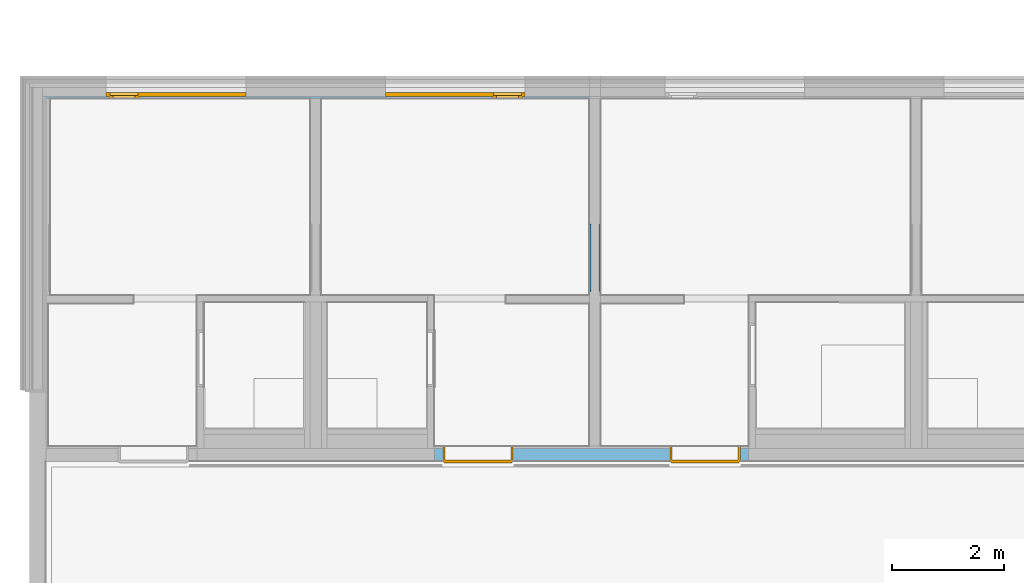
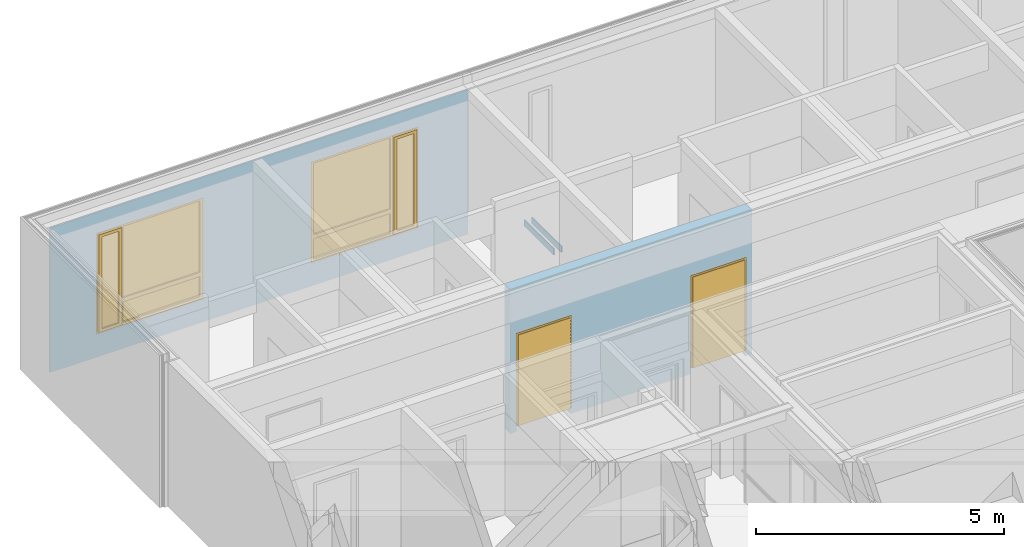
# One storey, part 100 of 222: 2 doors, 2 walls, 2 windows, 4 openings, plus 2 elements that do not belong to this part.
"""IFC4 building model written with IfcOpenShell, lengths in metres."""

from ifc_helpers import new_model, entity, si_unit, converted_unit, derived_unit, frame, frame_2d, origin, origin_with_axes, place, context, subcontext, project, spatial, polyline, rectangle, outline, extrude, closed_shell, open_shell, faceted_brep, surface_model, source, transform, mapped, material, type_object, element, fill, save


model = new_model("IFC4")

# Units and contexts
model_context = context("Model", 3, precision=1e-05, world=origin())
body_context = subcontext(model_context, "Body", "Model", "MODEL_VIEW")
ifc_project = project(units=[si_unit("LENGTHUNIT", "METRE"), si_unit("AREAUNIT", "SQUARE_METRE"), si_unit("VOLUMEUNIT", "CUBIC_METRE"), si_unit("MASSUNIT", "GRAM", prefix="KILO"), converted_unit("PLANEANGLEUNIT", "DEGREE", entity("IfcPlaneAngleMeasure", 0.0174532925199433), si_unit("PLANEANGLEUNIT", "RADIAN"), dimensions=[0, 0, 0, 0, 0, 0, 0]), derived_unit("THERMALTRANSMITTANCEUNIT", [(si_unit("POWERUNIT", "WATT"), 1), (si_unit("THERMODYNAMICTEMPERATUREUNIT", "KELVIN"), -1), (si_unit("LENGTHUNIT", "METRE"), -2)]), derived_unit("VOLUMETRICFLOWRATEUNIT", [(si_unit("LENGTHUNIT", "METRE"), 3), (converted_unit("TIMEUNIT", "hour", entity("IfcTimeMeasure", 3600.0), si_unit("TIMEUNIT", "SECOND"), dimensions=[0, 0, 1, 0, 0, 0, 0]), -1), (si_unit("LENGTHUNIT", "METRE"), -1)])], contexts=[model_context])

# Site, building, storey
site_placement = place(None, origin())
site = spatial("IfcSite", under=ifc_project, at=site_placement, Name="Psychiatrie Neubau Wunstorf", CompositionType="ELEMENT")
building_placement = place(site_placement, origin())
building = spatial("IfcBuilding", under=site, at=building_placement, Name="Neubau H2 Stationsgebäude", CompositionType="ELEMENT")
storey_placement = place(building_placement, frame((0.0, 0.0, 3.6)))
storey = spatial("IfcBuildingStorey", under=building, at=storey_placement, Name="H2 Ebene +1", CompositionType="ELEMENT", Elevation=3.6)

# Wall, openings, windows
ifc_material_1 = material(Name="WA-LB")
wall_1_placement = place(storey_placement, frame((0.169, 30.614, 0.0)))
wall_1 = element("IfcWall", 1, at=wall_1_placement, inside=storey, material=ifc_material_1, context=body_context, shape_type="SweptSolid", body=[
    extrude(rectangle(XDim=9.731, YDim=0.036, at=frame_2d((4.8655, 0.018), x_axis=(1.0, 0.0))), origin_with_axes(), (0.0, 0.0, 1.0), 3.55),
])
opening_1_placement = place(wall_1_placement, frame((6.081, 0.0, 0.55), z_axis=(0.0, 1.0, 0.0), x_axis=(0.0, 0.0, 1.0)))
opening_1 = element("IfcOpeningElement", 2, at=opening_1_placement, cuts=wall_1, Name="Fensteröffnung", ObjectType="Opening", context=body_context, shape_type="SweptSolid", body=[
    extrude(outline(polyline([(2.5, 2.5), (2.5, 0.0), (0.0, 0.0), (0.0, 2.5), (2.5, 2.5)])), origin_with_axes(), (0.0, 0.0, 1.0), 0.036),
])
opening_2_placement = place(wall_1_placement, frame((1.081, 0.0, 0.55), z_axis=(0.0, 1.0, 0.0), x_axis=(0.0, 0.0, 1.0)))
opening_2 = element("IfcOpeningElement", 3, at=opening_2_placement, cuts=wall_1, Name="Fensteröffnung", ObjectType="Opening", context=body_context, shape_type="SweptSolid", body=[
    extrude(outline(polyline([(2.5, 2.5), (2.5, 0.0), (0.0, 0.0), (0.0, 2.5), (2.5, 2.5)])), origin_with_axes(), (0.0, 0.0, 1.0), 0.036),
])
shared_shape_1 = source(origin_with_axes(), body_context, "Body", "SurfaceModel", [
    surface_model("IfcShellBasedSurfaceModel", [(2.5, 0.0, 2.5), (2.5, 0.0, 0.0), (2.43, 0.0, 0.0), (2.43, 0.0, 2.5), (2.5, 0.0699999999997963, 0.0), (2.5, 0.0699999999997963, 2.5), (2.43, 0.0699999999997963, 2.5), (2.43, 0.0699999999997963, 0.0)], [closed_shell([[[0, 1, 2, 3]], [[4, 5, 6, 7]], [[1, 0, 5, 4]], [[2, 1, 4, 7]], [[3, 2, 7, 6]], [[0, 3, 6, 5]]], orient=[[False], [False], [False], [False], [False], [False]])]),
    surface_model("IfcShellBasedSurfaceModel", [(0.07, 0.0, 2.5), (0.07, 0.0, 0.0), (0.0, 0.0, 0.0), (0.0, 0.0, 2.5), (0.07, 0.0699999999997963, 0.0), (0.07, 0.0699999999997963, 2.5), (0.0, 0.0699999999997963, 2.5), (0.0, 0.0699999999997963, 0.0)], [closed_shell([[[0, 1, 2, 3]], [[4, 5, 6, 7]], [[1, 0, 5, 4]], [[2, 1, 4, 7]], [[3, 2, 7, 6]], [[0, 3, 6, 5]]], orient=[[False], [False], [False], [False], [False], [False]])]),
    surface_model("IfcShellBasedSurfaceModel", [(2.43, 0.0, 0.07), (2.43, 0.0, 0.0), (0.07, 0.0, 0.0), (0.07, 0.0, 0.07), (2.43, 0.0699999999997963, 0.0), (2.43, 0.0699999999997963, 0.07), (0.07, 0.0699999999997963, 0.07), (0.07, 0.0699999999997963, 0.0)], [closed_shell([[[0, 1, 2, 3]], [[4, 5, 6, 7]], [[1, 0, 5, 4]], [[2, 1, 4, 7]], [[3, 2, 7, 6]], [[0, 3, 6, 5]]], orient=[[False], [False], [False], [False], [False], [False]])]),
    surface_model("IfcShellBasedSurfaceModel", [(2.43, 0.0, 2.5), (2.43, 0.0, 2.43), (0.07, 0.0, 2.43), (0.07, 0.0, 2.5), (2.43, 0.0699999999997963, 2.43), (2.43, 0.0699999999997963, 2.5), (0.07, 0.0699999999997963, 2.5), (0.07, 0.0699999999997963, 2.43)], [closed_shell([[[0, 1, 2, 3]], [[4, 5, 6, 7]], [[1, 0, 5, 4]], [[2, 1, 4, 7]], [[3, 2, 7, 6]], [[0, 3, 6, 5]]], orient=[[False], [False], [False], [False], [False], [False]])]),
    surface_model("IfcShellBasedSurfaceModel", [(1.934285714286, 0.0, 2.43), (1.934285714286, 0.0, 0.07), (1.864285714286, 0.0, 0.07), (1.864285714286, 0.0, 2.43), (1.934285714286, 0.0699999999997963, 0.07), (1.934285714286, 0.0699999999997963, 2.43), (1.864285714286, 0.0699999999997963, 2.43), (1.864285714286, 0.0699999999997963, 0.07)], [closed_shell([[[0, 1, 2, 3]], [[4, 5, 6, 7]], [[1, 0, 5, 4]], [[2, 1, 4, 7]], [[3, 2, 7, 6]], [[0, 3, 6, 5]]], orient=[[False], [False], [False], [False], [False], [False]])]),
    surface_model("IfcShellBasedSurfaceModel", [(2.45, -0.05, 2.45), (2.45, -0.05, 0.05), (2.38, -0.05, 0.05), (2.38, -0.05, 2.45), (2.45, 0.0199999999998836, 0.05), (2.45, 0.0199999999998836, 2.45), (2.38, 0.0199999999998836, 2.45), (2.38, 0.0199999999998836, 0.05)], [closed_shell([[[0, 1, 2, 3]], [[4, 5, 6, 7]], [[1, 0, 5, 4]], [[2, 1, 4, 7]], [[3, 2, 7, 6]], [[0, 3, 6, 5]]], orient=[[False], [False], [False], [False], [False], [False]])]),
    surface_model("IfcShellBasedSurfaceModel", [(1.984285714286, -0.05, 2.45), (1.984285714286, -0.05, 0.05), (1.914285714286, -0.05, 0.05), (1.914285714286, -0.05, 2.45), (1.984285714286, 0.0199999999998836, 0.05), (1.984285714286, 0.0199999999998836, 2.45), (1.914285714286, 0.0199999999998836, 2.45), (1.914285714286, 0.0199999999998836, 0.05)], [closed_shell([[[0, 1, 2, 3]], [[4, 5, 6, 7]], [[1, 0, 5, 4]], [[2, 1, 4, 7]], [[3, 2, 7, 6]], [[0, 3, 6, 5]]], orient=[[False], [False], [False], [False], [False], [False]])]),
    surface_model("IfcShellBasedSurfaceModel", [(2.38, -0.05, 0.12), (2.38, -0.05, 0.05), (1.984285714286, -0.05, 0.05), (1.984285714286, -0.05, 0.12), (2.38, 0.0199999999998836, 0.05), (2.38, 0.0199999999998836, 0.12), (1.984285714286, 0.0199999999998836, 0.12), (1.984285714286, 0.0199999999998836, 0.05)], [closed_shell([[[0, 1, 2, 3]], [[4, 5, 6, 7]], [[1, 0, 5, 4]], [[2, 1, 4, 7]], [[3, 2, 7, 6]], [[0, 3, 6, 5]]], orient=[[False], [False], [False], [False], [False], [False]])]),
    surface_model("IfcShellBasedSurfaceModel", [(2.38, -0.05, 2.45), (2.38, -0.05, 2.38), (1.984285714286, -0.05, 2.38), (1.984285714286, -0.05, 2.45), (2.38, 0.0199999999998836, 2.38), (2.38, 0.0199999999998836, 2.45), (1.984285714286, 0.0199999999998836, 2.45), (1.984285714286, 0.0199999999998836, 2.38)], [closed_shell([[[0, 1, 2, 3]], [[4, 5, 6, 7]], [[1, 0, 5, 4]], [[2, 1, 4, 7]], [[3, 2, 7, 6]], [[0, 3, 6, 5]]], orient=[[False], [False], [False], [False], [False], [False]])]),
    surface_model("IfcShellBasedSurfaceModel", [(1.864285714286, 0.0, 0.67), (1.864285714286, 0.0, 0.57), (0.07, 0.0, 0.57), (0.07, 0.0, 0.67), (1.864285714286, 0.0699999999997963, 0.57), (1.864285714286, 0.0699999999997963, 0.67), (0.07, 0.0699999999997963, 0.67), (0.07, 0.0699999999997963, 0.57)], [closed_shell([[[0, 1, 2, 3]], [[4, 5, 6, 7]], [[1, 0, 5, 4]], [[2, 1, 4, 7]], [[3, 2, 7, 6]], [[0, 3, 6, 5]]], orient=[[False], [False], [False], [False], [False], [False]])]),
    surface_model("IfcShellBasedSurfaceModel", [(2.38, -0.0150000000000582, 0.12), (1.984285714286, -0.0150000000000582, 0.12), (1.984285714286, -0.0150000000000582, 2.38), (2.38, -0.0150000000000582, 2.38)], [open_shell([[[0, 1, 2, 3]]], orient=[[False]])]),
    surface_model("IfcShellBasedSurfaceModel", [(1.864285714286, 0.0349999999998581, 0.07), (0.07, 0.0349999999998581, 0.07), (0.07, 0.0349999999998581, 0.57), (1.864285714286, 0.0349999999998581, 0.57)], [open_shell([[[0, 1, 2, 3]]], orient=[[False]])]),
    surface_model("IfcShellBasedSurfaceModel", [(1.864285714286, 0.0349999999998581, 0.67), (0.07, 0.0349999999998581, 0.67), (0.07, 0.0349999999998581, 2.43), (1.864285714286, 0.0349999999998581, 2.43)], [open_shell([[[0, 1, 2, 3]]], orient=[[False]])]),
])
window_1_placement = place(opening_1_placement, frame((0.0, 0.0, 0.03), z_axis=(1.0, 0.0, 0.0), x_axis=(0.0, 1.0, 0.0)))
window_1 = element("IfcWindow", 4, at=window_1_placement, inside=storey, Name="Fenster", OverallHeight=2.5, OverallWidth=2.5, PartitioningType="USERDEFINED", PredefinedType="WINDOW", context=body_context, shape_type="MappedRepresentation", body=[
    mapped(shared_shape_1, transform((0.0, 0.0, 0.0), x_axis=(1.0, 0.0, 0.0), y_axis=(0.0, 1.0, 0.0), z_axis=(0.0, 0.0, 1.0), scale=1.0)),
])
fill(opening_1, window_1)
shared_shape_2 = source(origin_with_axes(), body_context, "Body", "SurfaceModel", [
    surface_model("IfcShellBasedSurfaceModel", [(0.0, 0.0, 2.5), (0.07, 0.0, 2.5), (0.07, 0.0, 0.0), (0.0, 0.0, 0.0), (0.0, 0.0699999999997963, 0.0), (0.07, 0.0699999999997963, 0.0), (0.07, 0.0699999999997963, 2.5), (0.0, 0.0699999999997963, 2.5)], [closed_shell([[[0, 1, 2, 3]], [[4, 5, 6, 7]], [[3, 4, 7, 0]], [[2, 5, 4, 3]], [[1, 6, 5, 2]], [[0, 7, 6, 1]]], orient=[[False], [False], [False], [False], [False], [False]])]),
    surface_model("IfcShellBasedSurfaceModel", [(2.43, 0.0, 2.5), (2.5, 0.0, 2.5), (2.5, 0.0, 0.0), (2.43, 0.0, 0.0), (2.43, 0.0699999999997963, 0.0), (2.5, 0.0699999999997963, 0.0), (2.5, 0.0699999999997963, 2.5), (2.43, 0.0699999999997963, 2.5)], [closed_shell([[[0, 1, 2, 3]], [[4, 5, 6, 7]], [[3, 4, 7, 0]], [[2, 5, 4, 3]], [[1, 6, 5, 2]], [[0, 7, 6, 1]]], orient=[[False], [False], [False], [False], [False], [False]])]),
    surface_model("IfcShellBasedSurfaceModel", [(0.07, 0.0, 0.07), (2.43, 0.0, 0.07), (2.43, 0.0, 0.0), (0.07, 0.0, 0.0), (0.07, 0.0699999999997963, 0.0), (2.43, 0.0699999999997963, 0.0), (2.43, 0.0699999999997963, 0.07), (0.07, 0.0699999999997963, 0.07)], [closed_shell([[[0, 1, 2, 3]], [[4, 5, 6, 7]], [[3, 4, 7, 0]], [[2, 5, 4, 3]], [[1, 6, 5, 2]], [[0, 7, 6, 1]]], orient=[[False], [False], [False], [False], [False], [False]])]),
    surface_model("IfcShellBasedSurfaceModel", [(0.07, 0.0, 2.5), (2.43, 0.0, 2.5), (2.43, 0.0, 2.43), (0.07, 0.0, 2.43), (0.07, 0.0699999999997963, 2.43), (2.43, 0.0699999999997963, 2.43), (2.43, 0.0699999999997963, 2.5), (0.07, 0.0699999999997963, 2.5)], [closed_shell([[[0, 1, 2, 3]], [[4, 5, 6, 7]], [[3, 4, 7, 0]], [[2, 5, 4, 3]], [[1, 6, 5, 2]], [[0, 7, 6, 1]]], orient=[[False], [False], [False], [False], [False], [False]])]),
    surface_model("IfcShellBasedSurfaceModel", [(0.565714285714, 0.0, 2.43), (0.635714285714, 0.0, 2.43), (0.635714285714, 0.0, 0.07), (0.565714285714, 0.0, 0.07), (0.565714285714, 0.0699999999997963, 0.07), (0.635714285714, 0.0699999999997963, 0.07), (0.635714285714, 0.0699999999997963, 2.43), (0.565714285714, 0.0699999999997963, 2.43)], [closed_shell([[[0, 1, 2, 3]], [[4, 5, 6, 7]], [[3, 4, 7, 0]], [[2, 5, 4, 3]], [[1, 6, 5, 2]], [[0, 7, 6, 1]]], orient=[[False], [False], [False], [False], [False], [False]])]),
    surface_model("IfcShellBasedSurfaceModel", [(0.05, -0.05, 2.45), (0.12, -0.05, 2.45), (0.12, -0.05, 0.05), (0.05, -0.05, 0.05), (0.05, 0.0199999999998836, 0.05), (0.12, 0.0199999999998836, 0.05), (0.12, 0.0199999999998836, 2.45), (0.05, 0.0199999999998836, 2.45)], [closed_shell([[[0, 1, 2, 3]], [[4, 5, 6, 7]], [[3, 4, 7, 0]], [[2, 5, 4, 3]], [[1, 6, 5, 2]], [[0, 7, 6, 1]]], orient=[[False], [False], [False], [False], [False], [False]])]),
    surface_model("IfcShellBasedSurfaceModel", [(0.515714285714, -0.05, 2.45), (0.585714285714, -0.05, 2.45), (0.585714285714, -0.05, 0.05), (0.515714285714, -0.05, 0.05), (0.515714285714, 0.0199999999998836, 0.05), (0.585714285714, 0.0199999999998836, 0.05), (0.585714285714, 0.0199999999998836, 2.45), (0.515714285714, 0.0199999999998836, 2.45)], [closed_shell([[[0, 1, 2, 3]], [[4, 5, 6, 7]], [[3, 4, 7, 0]], [[2, 5, 4, 3]], [[1, 6, 5, 2]], [[0, 7, 6, 1]]], orient=[[False], [False], [False], [False], [False], [False]])]),
    surface_model("IfcShellBasedSurfaceModel", [(0.12, -0.05, 0.12), (0.515714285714, -0.05, 0.12), (0.515714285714, -0.05, 0.05), (0.12, -0.05, 0.05), (0.12, 0.0199999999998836, 0.05), (0.515714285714, 0.0199999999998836, 0.05), (0.515714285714, 0.0199999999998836, 0.12), (0.12, 0.0199999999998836, 0.12)], [closed_shell([[[0, 1, 2, 3]], [[4, 5, 6, 7]], [[3, 4, 7, 0]], [[2, 5, 4, 3]], [[1, 6, 5, 2]], [[0, 7, 6, 1]]], orient=[[False], [False], [False], [False], [False], [False]])]),
    surface_model("IfcShellBasedSurfaceModel", [(0.12, -0.05, 2.45), (0.515714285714, -0.05, 2.45), (0.515714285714, -0.05, 2.38), (0.12, -0.05, 2.38), (0.12, 0.0199999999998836, 2.38), (0.515714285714, 0.0199999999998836, 2.38), (0.515714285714, 0.0199999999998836, 2.45), (0.12, 0.0199999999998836, 2.45)], [closed_shell([[[0, 1, 2, 3]], [[4, 5, 6, 7]], [[3, 4, 7, 0]], [[2, 5, 4, 3]], [[1, 6, 5, 2]], [[0, 7, 6, 1]]], orient=[[False], [False], [False], [False], [False], [False]])]),
    surface_model("IfcShellBasedSurfaceModel", [(0.635714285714, 0.0, 0.67), (2.43, 0.0, 0.67), (2.43, 0.0, 0.57), (0.635714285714, 0.0, 0.57), (0.635714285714, 0.0699999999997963, 0.57), (2.43, 0.0699999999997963, 0.57), (2.43, 0.0699999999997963, 0.67), (0.635714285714, 0.0699999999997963, 0.67)], [closed_shell([[[0, 1, 2, 3]], [[4, 5, 6, 7]], [[3, 4, 7, 0]], [[2, 5, 4, 3]], [[1, 6, 5, 2]], [[0, 7, 6, 1]]], orient=[[False], [False], [False], [False], [False], [False]])]),
    surface_model("IfcShellBasedSurfaceModel", [(0.12, -0.0150000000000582, 0.12), (0.12, -0.0150000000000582, 2.38), (0.515714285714, -0.0150000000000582, 2.38), (0.515714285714, -0.0150000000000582, 0.12)], [open_shell([[[0, 1, 2, 3]]], orient=[[False]])]),
    surface_model("IfcShellBasedSurfaceModel", [(0.635714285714, 0.0349999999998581, 0.07), (0.635714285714, 0.0349999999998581, 0.57), (2.43, 0.0349999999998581, 0.57), (2.43, 0.0349999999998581, 0.07)], [open_shell([[[0, 1, 2, 3]]], orient=[[False]])]),
    surface_model("IfcShellBasedSurfaceModel", [(0.635714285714, 0.0349999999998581, 0.67), (0.635714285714, 0.0349999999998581, 2.43), (2.43, 0.0349999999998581, 2.43), (2.43, 0.0349999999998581, 0.67)], [open_shell([[[0, 1, 2, 3]]], orient=[[False]])]),
])
window_2_placement = place(opening_2_placement, frame((0.0, 0.0, 0.03), z_axis=(1.0, 0.0, 0.0), x_axis=(0.0, 1.0, 0.0)))
window_2 = element("IfcWindow", 5, at=window_2_placement, inside=storey, Name="Fenster", OverallHeight=2.5, OverallWidth=2.5, PartitioningType="USERDEFINED", PredefinedType="WINDOW", context=body_context, shape_type="MappedRepresentation", body=[
    mapped(shared_shape_2, transform((0.0, 0.0, 0.0), x_axis=(1.0, 0.0, 0.0), y_axis=(0.0, 1.0, 0.0), z_axis=(0.0, 0.0, 1.0), scale=1.0)),
])
fill(opening_2, window_2)

# Wall, openings, doors
ifc_material_2 = material(Name="WI-HW 60")
wall_2_placement = place(storey_placement, frame((7.125, 24.1175, 0.0), z_axis=(0.0, 0.0, 1.0), x_axis=(1.0, -6.46751787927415e-16, 0.0)))
wall_2 = element("IfcWall", 6, at=wall_2_placement, inside=storey, material=ifc_material_2, context=body_context, shape_type="SweptSolid", body=[
    extrude(rectangle(XDim=5.625, YDim=0.232, at=frame_2d((2.8125, 0.116), x_axis=(1.0, 0.0))), origin_with_axes(), (0.0, 0.0, 1.0), 3.55),
])
opening_3_placement = place(wall_2_placement, frame((4.21500000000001, 0.0, 0.0), z_axis=(0.0, 1.0, 0.0), x_axis=(0.0, 0.0, 1.0)))
opening_3 = element("IfcOpeningElement", 7, at=opening_3_placement, cuts=wall_2, Name="Türöffnung", ObjectType="Opening", context=body_context, shape_type="SweptSolid", body=[
    extrude(outline(polyline([(2.41, 1.26), (2.41, 0.0), (0.0, 0.0), (0.0, 1.26), (2.41, 1.26)])), origin_with_axes(), (0.0, 0.0, 1.0), 0.232),
])
opening_4_placement = place(wall_2_placement, frame((0.149999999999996, 0.0, 0.0), z_axis=(-6.125368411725e-16, 1.0, 0.0), x_axis=(0.0, 0.0, 1.0)))
opening_4 = element("IfcOpeningElement", 8, at=opening_4_placement, cuts=wall_2, Name="Türöffnung", ObjectType="Opening", context=body_context, shape_type="SweptSolid", body=[
    extrude(outline(polyline([(2.41, 1.26), (2.41, 0.0), (0.0, 0.0), (0.0, 1.26), (2.41, 1.26)])), origin_with_axes(), (0.0, 0.0, 1.0), 0.232),
])
ifc_material_3 = material(Name="TI-2F-UZ-D")
door_type_1 = type_object("IfcDoorType", Name="SMT", OperationType="DOUBLE_DOOR_SINGLE_SWING", ParameterTakesPrecedence=False, PredefinedType="DOOR")
shared_shape_3 = source(origin_with_axes(), body_context, "Body", "Brep", [
    faceted_brep([(1.26, -0.0150000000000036, 2.41), (1.26, -0.0150000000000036, 0.15), (1.22, -0.0150000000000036, 0.15), (1.22, -0.0150000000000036, 2.41), (1.26, 0.286999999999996, 0.15), (1.26, 0.286999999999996, 2.41), (1.22, 0.286999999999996, 2.41), (1.22, 0.286999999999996, 0.15)], [[[0, 1, 2, 3]], [[4, 5, 6, 7]], [[1, 0, 5, 4]], [[2, 1, 4, 7]], [[3, 2, 7, 6]], [[0, 3, 6, 5]]], orient=[[False], [False], [False], [False], [False], [False]]),
    faceted_brep([(1.26, -0.0150000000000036, 2.425), (1.275, -0.0150000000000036, 2.425), (1.275, -0.0150000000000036, 0.15), (1.26, -0.0150000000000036, 0.15), (1.26, 0.0, 0.15), (1.275, 0.0, 0.15), (1.275, 0.0, 2.425), (1.26, 0.0, 2.425)], [[[0, 1, 2, 3]], [[4, 5, 6, 7]], [[3, 4, 7, 0]], [[2, 5, 4, 3]], [[1, 6, 5, 2]], [[0, 7, 6, 1]]], orient=[[False], [False], [False], [False], [False], [False]]),
    faceted_brep([(1.26, 0.271999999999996, 2.425), (1.275, 0.271999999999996, 2.425), (1.275, 0.271999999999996, 0.15), (1.26, 0.271999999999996, 0.15), (1.26, 0.286999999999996, 0.15), (1.275, 0.286999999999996, 0.15), (1.275, 0.286999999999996, 2.425), (1.26, 0.286999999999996, 2.425)], [[[0, 1, 2, 3]], [[4, 5, 6, 7]], [[3, 4, 7, 0]], [[2, 5, 4, 3]], [[1, 6, 5, 2]], [[0, 7, 6, 1]]], orient=[[False], [False], [False], [False], [False], [False]]),
    faceted_brep([(0.04, -0.0150000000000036, 2.41), (0.04, -0.0150000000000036, 0.15), (0.0, -0.0150000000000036, 0.15), (0.0, -0.0150000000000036, 2.41), (0.04, 0.286999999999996, 0.15), (0.04, 0.286999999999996, 2.41), (0.0, 0.286999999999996, 2.41), (0.0, 0.286999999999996, 0.15)], [[[0, 1, 2, 3]], [[4, 5, 6, 7]], [[1, 0, 5, 4]], [[2, 1, 4, 7]], [[3, 2, 7, 6]], [[0, 3, 6, 5]]], orient=[[False], [False], [False], [False], [False], [False]]),
    faceted_brep([(0.0, -0.0150000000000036, 2.425), (0.0, -0.0150000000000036, 0.15), (-0.015, -0.0150000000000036, 0.15), (-0.015, -0.0150000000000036, 2.425), (0.0, 0.0, 0.15), (0.0, 0.0, 2.425), (-0.015, 0.0, 2.425), (-0.015, 0.0, 0.15)], [[[0, 1, 2, 3]], [[4, 5, 6, 7]], [[1, 0, 5, 4]], [[2, 1, 4, 7]], [[3, 2, 7, 6]], [[0, 3, 6, 5]]], orient=[[False], [False], [False], [False], [False], [False]]),
    faceted_brep([(0.0, 0.271999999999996, 2.425), (0.0, 0.271999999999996, 0.15), (-0.015, 0.271999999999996, 0.15), (-0.015, 0.271999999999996, 2.425), (0.0, 0.286999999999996, 0.15), (0.0, 0.286999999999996, 2.425), (-0.015, 0.286999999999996, 2.425), (-0.015, 0.286999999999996, 0.15)], [[[0, 1, 2, 3]], [[4, 5, 6, 7]], [[1, 0, 5, 4]], [[2, 1, 4, 7]], [[3, 2, 7, 6]], [[0, 3, 6, 5]]], orient=[[False], [False], [False], [False], [False], [False]]),
    faceted_brep([(1.22, -0.0150000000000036, 2.41), (1.22, -0.0150000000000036, 2.37), (0.04, -0.0150000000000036, 2.37), (0.04, -0.0150000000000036, 2.41), (1.22, 0.286999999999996, 2.37), (1.22, 0.286999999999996, 2.41), (0.04, 0.286999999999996, 2.41), (0.04, 0.286999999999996, 2.37)], [[[0, 1, 2, 3]], [[4, 5, 6, 7]], [[1, 0, 5, 4]], [[2, 1, 4, 7]], [[3, 2, 7, 6]], [[0, 3, 6, 5]]], orient=[[False], [False], [False], [False], [False], [False]]),
    faceted_brep([(1.26, -0.0150000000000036, 2.425), (1.26, -0.0150000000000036, 2.41), (0.0, -0.0150000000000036, 2.41), (0.0, -0.0150000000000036, 2.425), (1.26, 0.0, 2.41), (1.26, 0.0, 2.425), (0.0, 0.0, 2.425), (0.0, 0.0, 2.41)], [[[0, 1, 2, 3]], [[4, 5, 6, 7]], [[1, 0, 5, 4]], [[2, 1, 4, 7]], [[3, 2, 7, 6]], [[0, 3, 6, 5]]], orient=[[False], [False], [False], [False], [False], [False]]),
    faceted_brep([(1.26, 0.271999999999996, 2.425), (1.26, 0.271999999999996, 2.41), (0.0, 0.271999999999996, 2.41), (0.0, 0.271999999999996, 2.425), (1.26, 0.286999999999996, 2.41), (1.26, 0.286999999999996, 2.425), (0.0, 0.286999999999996, 2.425), (0.0, 0.286999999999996, 2.41)], [[[0, 1, 2, 3]], [[4, 5, 6, 7]], [[1, 0, 5, 4]], [[2, 1, 4, 7]], [[3, 2, 7, 6]], [[0, 3, 6, 5]]], orient=[[False], [False], [False], [False], [False], [False]]),
    faceted_brep([(1.235, 0.251999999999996, 2.385), (1.235, 0.251999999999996, 0.15), (0.335, 0.251999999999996, 0.15), (0.335, 0.251999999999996, 2.385), (1.235, 0.301999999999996, 0.15), (1.235, 0.301999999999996, 2.385), (0.335, 0.301999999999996, 2.385), (0.335, 0.301999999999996, 0.15)], [[[0, 1, 2, 3]], [[4, 5, 6, 7]], [[1, 0, 5, 4]], [[2, 1, 4, 7]], [[3, 2, 7, 6]], [[0, 3, 6, 5]]], orient=[[False], [False], [False], [False], [False], [False]]),
    faceted_brep([(0.334, 0.251999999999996, 2.385), (0.334, 0.251999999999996, 0.15), (0.025, 0.251999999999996, 0.15), (0.025, 0.251999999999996, 2.385), (0.334, 0.301999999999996, 0.15), (0.334, 0.301999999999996, 2.385), (0.025, 0.301999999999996, 2.385), (0.025, 0.301999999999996, 0.15)], [[[0, 1, 2, 3]], [[4, 5, 6, 7]], [[1, 0, 5, 4]], [[2, 1, 4, 7]], [[3, 2, 7, 6]], [[0, 3, 6, 5]]], orient=[[False], [False], [False], [False], [False], [False]]),
])
door_1_placement = place(opening_3_placement, frame((0.0, 1.26, 0.271999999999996), z_axis=(1.0, 0.0, 0.0), x_axis=(0.0, -1.0, -6.46751787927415e-16)))
door_1 = element("IfcDoor", 9, at=door_1_placement, inside=storey, type_object=door_type_1, material=ifc_material_3, Name="SMT", OverallHeight=2.41, OverallWidth=1.26, context=body_context, shape_type="MappedRepresentation", body=[
    mapped(shared_shape_3, transform((0.0, 0.0, 0.0), x_axis=(1.0, 0.0, 0.0), y_axis=(0.0, 1.0, 0.0), z_axis=(0.0, 0.0, 1.0), scale=1.0)),
])
fill(opening_3, door_1)
ifc_material_4 = material(Name="TI-2F-UZ-D")
door_type_2 = type_object("IfcDoorType", Name="SMT", OperationType="DOUBLE_DOOR_SINGLE_SWING", ParameterTakesPrecedence=False, PredefinedType="DOOR")
shared_shape_4 = source(origin_with_axes(), body_context, "Body", "Brep", [
    faceted_brep([(0.0, -0.0150000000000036, 2.41), (0.04, -0.0150000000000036, 2.41), (0.04, -0.0150000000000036, 0.15), (0.0, -0.0150000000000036, 0.15), (0.0, 0.286999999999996, 0.15), (0.04, 0.286999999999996, 0.15), (0.04, 0.286999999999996, 2.41), (0.0, 0.286999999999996, 2.41)], [[[0, 1, 2, 3]], [[4, 5, 6, 7]], [[3, 4, 7, 0]], [[2, 5, 4, 3]], [[1, 6, 5, 2]], [[0, 7, 6, 1]]], orient=[[False], [False], [False], [False], [False], [False]]),
    faceted_brep([(0.0, -0.0150000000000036, 2.425), (0.0, -0.0150000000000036, 0.15), (-0.015, -0.0150000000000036, 0.15), (-0.015, -0.0150000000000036, 2.425), (0.0, 0.0, 0.15), (0.0, 0.0, 2.425), (-0.015, 0.0, 2.425), (-0.015, 0.0, 0.15)], [[[0, 1, 2, 3]], [[4, 5, 6, 7]], [[1, 0, 5, 4]], [[2, 1, 4, 7]], [[3, 2, 7, 6]], [[0, 3, 6, 5]]], orient=[[False], [False], [False], [False], [False], [False]]),
    faceted_brep([(0.0, 0.271999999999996, 2.425), (0.0, 0.271999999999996, 0.15), (-0.015, 0.271999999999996, 0.15), (-0.015, 0.271999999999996, 2.425), (0.0, 0.286999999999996, 0.15), (0.0, 0.286999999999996, 2.425), (-0.015, 0.286999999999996, 2.425), (-0.015, 0.286999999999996, 0.15)], [[[0, 1, 2, 3]], [[4, 5, 6, 7]], [[1, 0, 5, 4]], [[2, 1, 4, 7]], [[3, 2, 7, 6]], [[0, 3, 6, 5]]], orient=[[False], [False], [False], [False], [False], [False]]),
    faceted_brep([(1.22, -0.0150000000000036, 2.41), (1.26, -0.0150000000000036, 2.41), (1.26, -0.0150000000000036, 0.15), (1.22, -0.0150000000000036, 0.15), (1.22, 0.286999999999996, 0.15), (1.26, 0.286999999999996, 0.15), (1.26, 0.286999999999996, 2.41), (1.22, 0.286999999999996, 2.41)], [[[0, 1, 2, 3]], [[4, 5, 6, 7]], [[3, 4, 7, 0]], [[2, 5, 4, 3]], [[1, 6, 5, 2]], [[0, 7, 6, 1]]], orient=[[False], [False], [False], [False], [False], [False]]),
    faceted_brep([(1.26, -0.0150000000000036, 2.425), (1.275, -0.0150000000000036, 2.425), (1.275, -0.0150000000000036, 0.15), (1.26, -0.0150000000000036, 0.15), (1.26, 0.0, 0.15), (1.275, 0.0, 0.15), (1.275, 0.0, 2.425), (1.26, 0.0, 2.425)], [[[0, 1, 2, 3]], [[4, 5, 6, 7]], [[3, 4, 7, 0]], [[2, 5, 4, 3]], [[1, 6, 5, 2]], [[0, 7, 6, 1]]], orient=[[False], [False], [False], [False], [False], [False]]),
    faceted_brep([(1.26, 0.271999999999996, 2.425), (1.275, 0.271999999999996, 2.425), (1.275, 0.271999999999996, 0.15), (1.26, 0.271999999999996, 0.15), (1.26, 0.286999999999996, 0.15), (1.275, 0.286999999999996, 0.15), (1.275, 0.286999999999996, 2.425), (1.26, 0.286999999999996, 2.425)], [[[0, 1, 2, 3]], [[4, 5, 6, 7]], [[3, 4, 7, 0]], [[2, 5, 4, 3]], [[1, 6, 5, 2]], [[0, 7, 6, 1]]], orient=[[False], [False], [False], [False], [False], [False]]),
    faceted_brep([(0.04, -0.0150000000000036, 2.41), (1.22, -0.0150000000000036, 2.41), (1.22, -0.0150000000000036, 2.37), (0.04, -0.0150000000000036, 2.37), (0.04, 0.286999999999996, 2.37), (1.22, 0.286999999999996, 2.37), (1.22, 0.286999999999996, 2.41), (0.04, 0.286999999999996, 2.41)], [[[0, 1, 2, 3]], [[4, 5, 6, 7]], [[3, 4, 7, 0]], [[2, 5, 4, 3]], [[1, 6, 5, 2]], [[0, 7, 6, 1]]], orient=[[False], [False], [False], [False], [False], [False]]),
    faceted_brep([(0.0, -0.0150000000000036, 2.425), (1.26, -0.0150000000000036, 2.425), (1.26, -0.0150000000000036, 2.41), (0.0, -0.0150000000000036, 2.41), (0.0, 0.0, 2.41), (1.26, 0.0, 2.41), (1.26, 0.0, 2.425), (0.0, 0.0, 2.425)], [[[0, 1, 2, 3]], [[4, 5, 6, 7]], [[3, 4, 7, 0]], [[2, 5, 4, 3]], [[1, 6, 5, 2]], [[0, 7, 6, 1]]], orient=[[False], [False], [False], [False], [False], [False]]),
    faceted_brep([(0.0, 0.271999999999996, 2.425), (1.26, 0.271999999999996, 2.425), (1.26, 0.271999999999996, 2.41), (0.0, 0.271999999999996, 2.41), (0.0, 0.286999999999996, 2.41), (1.26, 0.286999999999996, 2.41), (1.26, 0.286999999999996, 2.425), (0.0, 0.286999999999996, 2.425)], [[[0, 1, 2, 3]], [[4, 5, 6, 7]], [[3, 4, 7, 0]], [[2, 5, 4, 3]], [[1, 6, 5, 2]], [[0, 7, 6, 1]]], orient=[[False], [False], [False], [False], [False], [False]]),
    faceted_brep([(0.025, 0.251999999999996, 2.385), (0.924999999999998, 0.251999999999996, 2.385), (0.924999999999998, 0.251999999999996, 0.15), (0.025, 0.251999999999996, 0.15), (0.025, 0.301999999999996, 0.15), (0.924999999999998, 0.301999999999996, 0.15), (0.924999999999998, 0.301999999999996, 2.385), (0.025, 0.301999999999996, 2.385)], [[[0, 1, 2, 3]], [[4, 5, 6, 7]], [[3, 4, 7, 0]], [[2, 5, 4, 3]], [[1, 6, 5, 2]], [[0, 7, 6, 1]]], orient=[[False], [False], [False], [False], [False], [False]]),
    faceted_brep([(0.925999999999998, 0.251999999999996, 2.385), (1.235, 0.251999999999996, 2.385), (1.235, 0.251999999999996, 0.15), (0.925999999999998, 0.251999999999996, 0.15), (0.925999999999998, 0.301999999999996, 0.15), (1.235, 0.301999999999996, 0.15), (1.235, 0.301999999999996, 2.385), (0.925999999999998, 0.301999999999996, 2.385)], [[[0, 1, 2, 3]], [[4, 5, 6, 7]], [[3, 4, 7, 0]], [[2, 5, 4, 3]], [[1, 6, 5, 2]], [[0, 7, 6, 1]]], orient=[[False], [False], [False], [False], [False], [False]]),
])
door_2_placement = place(opening_4_placement, frame((0.0, 1.26, 0.271999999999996), z_axis=(1.0, 0.0, 0.0), x_axis=(0.0, -1.0, -3.42149467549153e-17)))
door_2 = element("IfcDoor", 10, at=door_2_placement, inside=storey, type_object=door_type_2, material=ifc_material_4, Name="SMT", OverallHeight=2.41, OverallWidth=1.26, context=body_context, shape_type="MappedRepresentation", body=[
    mapped(shared_shape_4, transform((0.0, 0.0, 0.0), x_axis=(1.0, 0.0, 0.0), y_axis=(0.0, 1.0, 0.0), z_axis=(0.0, 0.0, 1.0), scale=1.0)),
])
fill(opening_4, door_2)

# Walls
for number, where, name in (
    (11, (9.89999999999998, 27.1628367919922, 1.575), "WV 1.1"),
    (12, (10.075, 27.1628367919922, 1.575), "WV 1.1"),
):
    element("IfcWall", number, at=place(storey_placement, frame(where)), inside=storey, Name=name, context=body_context, shape_type="Brep", body=[
        faceted_brep([(0.025, 1.2, 0.0), (0.0, 1.2, 0.0), (0.0, 0.0, 0.0), (0.025, 0.0, 0.0), (0.0, 1.2, 0.15), (0.025, 1.2, 0.15), (0.025, 0.0, 0.15), (0.0, 0.0, 0.15)], [[[0, 1, 2, 3]], [[4, 5, 6, 7]], [[1, 0, 5, 4]], [[2, 1, 4, 7]], [[3, 2, 7, 6]], [[0, 3, 6, 5]]], orient=[[False], [False], [False], [False], [False], [False]]),
    ])

save(model, "model.ifc")
